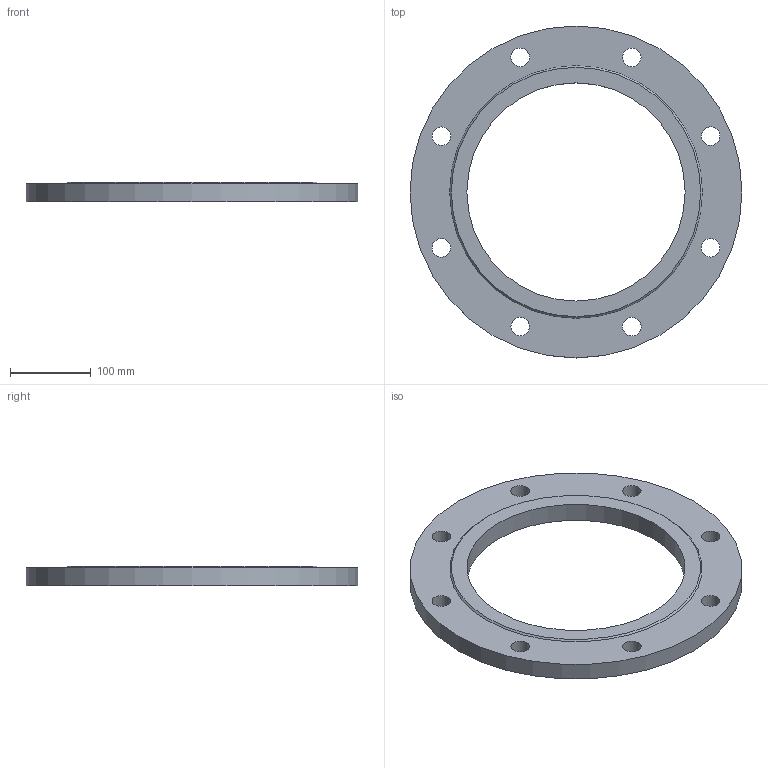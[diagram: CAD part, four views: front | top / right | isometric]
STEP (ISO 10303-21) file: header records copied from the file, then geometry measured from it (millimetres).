
FILE_DESCRIPTION(/* description */ (''),/* implementation_level */ '2;1');
FILE_NAME(/* name */ 'C:\Users\D\Documents\Inventor\HP\JIS\フランジ\水道用フランジF12\PL\ffws_pl_250.stp',/* time_stamp */ '2024-08-28T10:12:41+09:00',/* author */ ('D'),/* organization */ (''),/* preprocessor_version */ 'ST-DEVELOPER v18',/* originating_system */ 'Autodesk Inventor 2020',/* authorisation */ '');
FILE_SCHEMA (('AUTOMOTIVE_DESIGN { 1 0 10303 214 3 1 1 }'));
Length unit declared in the file: millimetre
Products named in the file (1): ffws_pl_80
Bounding box: 410 x 410 x 24 mm (x, y, z)
Volume: 1613343.4 mm3; surface area: 205496.9 mm2
Topology: 1 solids, 1 shells, 14 faces, 46 edges, 35 vertices
Faces by surface type: cylinder 10, plane 3, cone 1
Full cylindrical faces by diameter (mm): 23 x8, 269.5 x1, 410 x1
Entity records: 626 total; most frequent: DIRECTION 111, CARTESIAN_POINT 96, ORIENTED_EDGE 92, AXIS2_PLACEMENT_3D 50, EDGE_CURVE 46, CIRCLE 35, VERTEX_POINT 35, EDGE_LOOP 33
